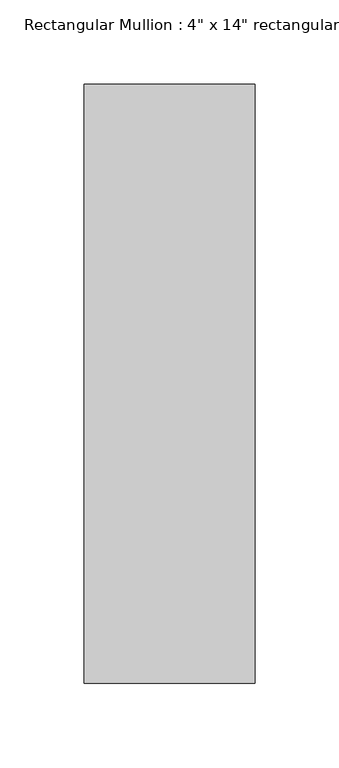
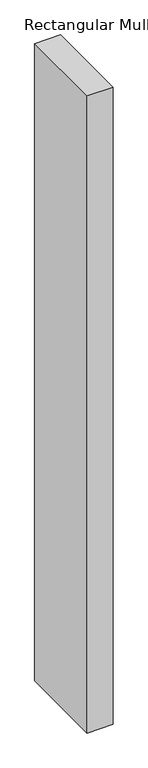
"""IFC4 building model written with IfcOpenShell, lengths in millimetres: member geometry."""

from ifc_helpers import new_model, si_unit, frame, origin, place, context, project, spatial, polyline, outline, extrude, source, transform, mapped, element, save


def member_f277b4de(model_context):
    return source(origin(), model_context, "Body", "SweptSolid", [
        extrude(outline(polyline([(50.8, 342.9), (50.8, -12.7), (-50.8, -12.7), (-50.8, 342.9), (50.8, 342.9)])), frame((0.0, 0.0, -2638.9041174), z_axis=(0.0, 0.0, 1.0), x_axis=(1.0, 0.0, 0.0)), (0.0, 0.0, 1.0), 2638.9041174),
    ])


if __name__ == "__main__":
    model = new_model("IFC4")
    model_context = context("Model", 3, world=origin())
    ifc_project = project(units=[si_unit("LENGTHUNIT", "METRE", prefix="MILLI")], contexts=[model_context])
    site = spatial("IfcSite", under=ifc_project)
    building = spatial("IfcBuilding", under=site)
    placement = place(None, origin())
    member_shape = member_f277b4de(model_context)
    element("IfcMember", 1, ObjectType="Rectangular Mullion : 4\" x 14\" rectangular", at=placement, inside=building, context=model_context, shape_type="MappedRepresentation", body=[
        mapped(member_shape, transform((0.0, 0.0, 0.0), x_axis=(1.0, 0.0, 0.0), y_axis=(0.0, 1.0, 0.0), z_axis=(0.0, 0.0, 1.0))),
    ])
    save(model, "model.ifc")
